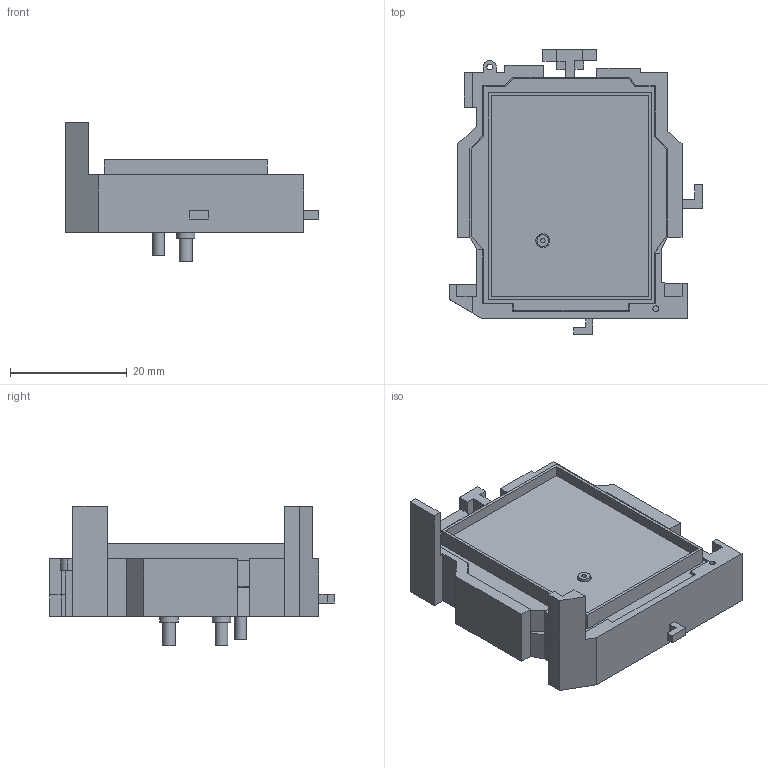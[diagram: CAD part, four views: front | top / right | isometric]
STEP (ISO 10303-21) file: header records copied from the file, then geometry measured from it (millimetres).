
FILE_DESCRIPTION(('STEP AP214'),'1');
FILE_NAME('ASSY_CAP.stp','2026-06-04T04:58:56',(' '),(' '),'Spatial InterOp 3D',' ',' ');
FILE_SCHEMA(('AUTOMOTIVE_DESIGN { 1 0 10303 214 1 1 1 1 }'));
Length unit declared in the file: metre
Products named in the file (3): ASSY_CAP; Cap_holder; Blade
Assembly tree (2 placements, depth 2):
  ASSY_CAP
    Cap_holder
    Blade
Bounding box: 43.6 x 48.9 x 23.9 mm (x, y, z)
Volume: 15442.1 mm3; surface area: 10677.9 mm2
Topology: 2 solids, 5 shells, 167 faces, 439 edges, 292 vertices
Faces by surface type: plane 152, cylinder 15
Full cylindrical faces by diameter (mm): 0.8 x1, 0.9 x2, 1 x2, 2 x2, 2.2 x2, 2.4 x1, 3.15 x2, 25.6 x1, 29.1 x1
Entity records: 6396 total; most frequent: CARTESIAN_POINT 877, ORIENTED_EDGE 835, DIRECTION 795, EDGE_CURVE 420, LINE 385, VECTOR 385, VERTEX_POINT 287, EDGE_LOOP 206
